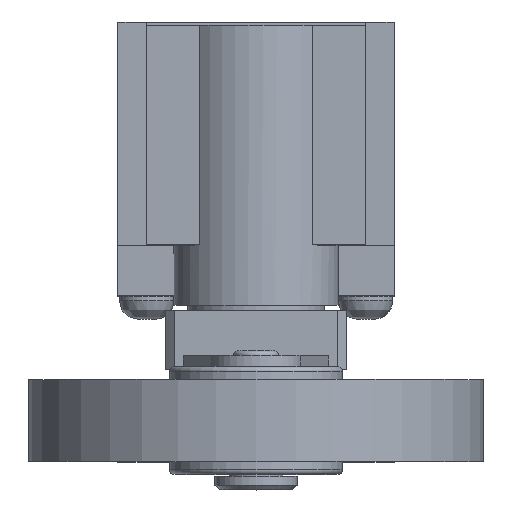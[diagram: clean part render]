
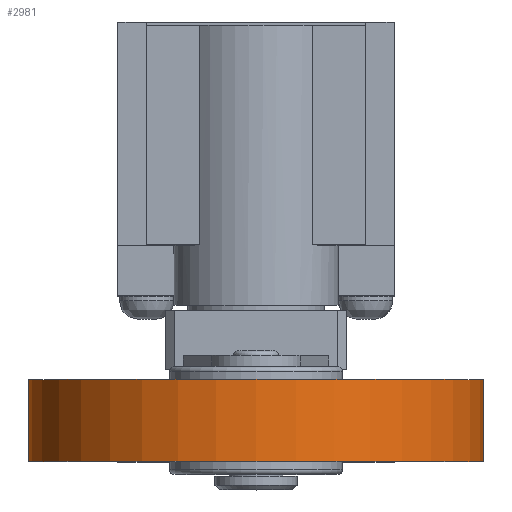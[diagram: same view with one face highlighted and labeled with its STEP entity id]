
A CAD part, top view. The second image highlights one B-rep face of the part: STEP entity #2981.
In plain terms, the highlighted cylindrical face has radius 25 mm (diameter 50 mm), a full revolution.
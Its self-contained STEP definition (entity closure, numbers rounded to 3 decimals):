
#2919=CARTESIAN_POINT('',(0.0,81.5,33.75));
#2920=VERTEX_POINT('',#2919);
#2921=CARTESIAN_POINT('',(0.0,56.5,33.75));
#2922=DIRECTION('',(0.0,0.0,-1.0));
#2923=DIRECTION('',(0.0,1.0,0.0));
#2924=AXIS2_PLACEMENT_3D('',#2921,#2922,#2923);
#2925=CIRCLE('',#2924,25.);
#2926=EDGE_CURVE('',#2920,#2920,#2925,.T.);
#2947=CARTESIAN_POINT('',(0.0,81.5,24.75));
#2948=VERTEX_POINT('',#2947);
#2949=CARTESIAN_POINT('',(0.0,56.5,24.75));
#2950=DIRECTION('',(0.0,0.0,-1.0));
#2951=DIRECTION('',(0.0,1.0,0.0));
#2952=AXIS2_PLACEMENT_3D('',#2949,#2950,#2951);
#2953=CIRCLE('',#2952,25.);
#2954=EDGE_CURVE('',#2948,#2948,#2953,.T.);
#2970=CARTESIAN_POINT('',(0.0,56.5,27.));
#2971=DIRECTION('',(0.0,0.0,-1.0));
#2972=DIRECTION('',(0.0,1.0,0.0));
#2973=AXIS2_PLACEMENT_3D('',#2970,#2971,#2972);
#2974=CYLINDRICAL_SURFACE('',#2973,25.);
#2975=ORIENTED_EDGE('',*,*,#2926,.T.);
#2976=EDGE_LOOP('',(#2975));
#2977=FACE_OUTER_BOUND('',#2976,.T.);
#2978=ORIENTED_EDGE('',*,*,#2954,.F.);
#2979=EDGE_LOOP('',(#2978));
#2980=FACE_BOUND('',#2979,.T.);
#2981=ADVANCED_FACE('',(#2977,#2980),#2974,.T.);
